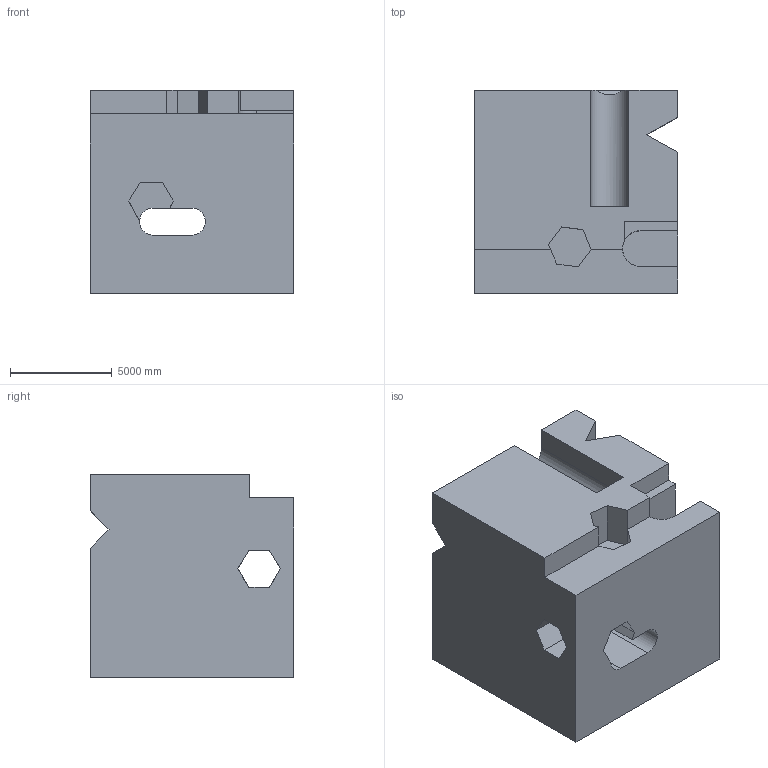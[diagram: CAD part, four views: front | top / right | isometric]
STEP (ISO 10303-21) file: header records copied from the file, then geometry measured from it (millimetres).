
FILE_DESCRIPTION (( 'STEP AP203' ), '1' );
FILE_NAME ('184.STEP', '2022-08-31T15:03:04', ( 'user' ), ( '' ), 'SwSTEP 2.0', 'SolidWorks 2021', '' );
FILE_SCHEMA (( 'CONFIG_CONTROL_DESIGN' ));
Length unit declared in the file: centimetre
Products named in the file (1): 184
Bounding box: 10000 x 10000 x 10000 mm (x, y, z)
Volume: 827617420197.8 mm3; surface area: 786163253.2 mm2
Topology: 1 solids, 1 shells, 57 faces, 173 edges, 115 vertices
Faces by surface type: plane 53, cylinder 4
Entity records: 2002 total; most frequent: CARTESIAN_POINT 355, ORIENTED_EDGE 346, DIRECTION 300, EDGE_CURVE 173, LINE 156, VECTOR 156, VERTEX_POINT 115, AXIS2_PLACEMENT_3D 72
